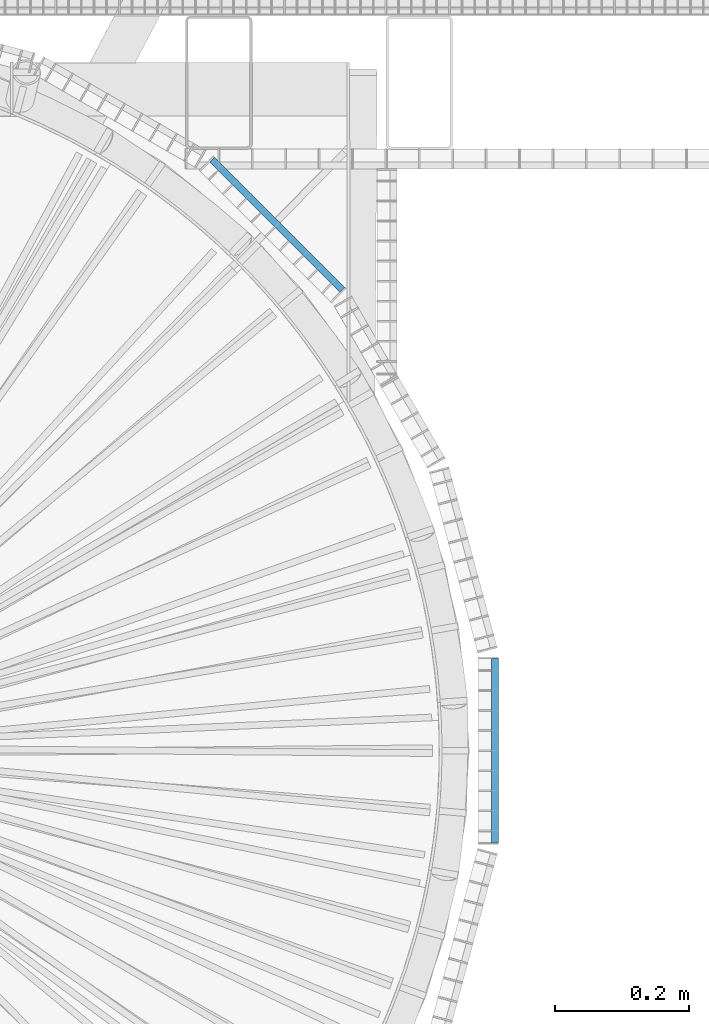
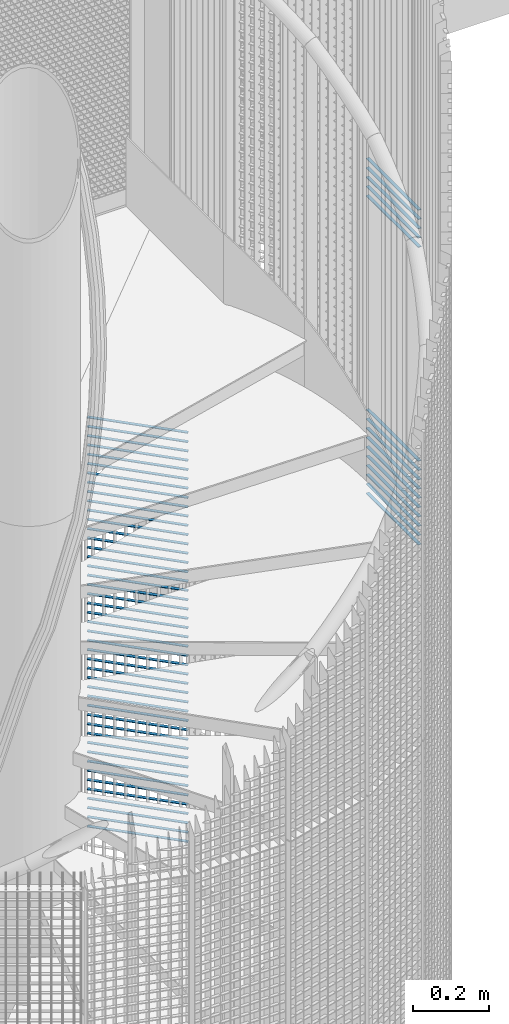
# One storey, part 297 of 1183: 60 beams, 2 elements without a shape of their own.
"""IFC2X3 building model written with IfcOpenShell, lengths in millimetres."""

import ifcopenshell
import ifcopenshell.guid

model = None  # the IFC model being written
_history = None  # IfcOwnerHistory: only IFC2X3 demands one
_inside = {}  # id of a spatial element -> (the spatial element, [elements in it])
_under = {}  # id of a project, library or spatial element -> (it, [spatial elements below it])
_declared = {}  # id of a project -> (the project, [libraries it declares])
_typed = {}  # id of a type object -> (the type object, [elements of that type])
_made_of = {}  # id of a material, layer set ... -> (it, [elements and type objects made of it])


def new_model(schema):
    """Start an empty IFC model of exactly this schema.

    Asked for "IFC4X3", IfcOpenShell would pick the latest addendum, in which some entities
    have other attributes; the version numbers below select the first issue.
    IFC2X3 requires an IfcOwnerHistory on every rooted entity: one is made here for all.
    """
    global model, _history
    if schema == "IFC4X3":
        model = ifcopenshell.file(schema_version=(4, 3, 0, 0))
    else:
        model = ifcopenshell.file(schema=schema)
    _inside.clear()
    _under.clear()
    _declared.clear()
    _typed.clear()
    _made_of.clear()
    _history = None
    if model.schema == "IFC2X3":
        org = make("IfcOrganization", Name="unknown")
        user = make(
            "IfcPersonAndOrganization",
            ThePerson=make("IfcPerson", FamilyName="unknown"),
            TheOrganization=org,
        )
        app = make(
            "IfcApplication",
            ApplicationDeveloper=org,
            Version="unknown",
            ApplicationFullName="unknown",
            ApplicationIdentifier="unknown",
        )
        _history = make(
            "IfcOwnerHistory",
            OwningUser=user,
            OwningApplication=app,
            ChangeAction="ADDED",
            CreationDate=0,
        )
    return model


def make(cls, **values):
    """One entity of the class cls with the attributes given. An attribute that is None is left unset."""
    return model.create_entity(
        cls, **{name: value for name, value in values.items() if value is not None}
    )


def rooted(cls, **values):
    """An entity with a GlobalId (a new one), such as an element, a storey or a relation."""
    return make(cls, GlobalId=ifcopenshell.guid.new(), OwnerHistory=_history, **values)


def si_unit(unit_type, name, prefix=None):
    """IfcSIUnit, for example si_unit("LENGTHUNIT", "METRE", prefix="MILLI")."""
    return make("IfcSIUnit", UnitType=unit_type, Prefix=prefix, Name=name)


def assignment(units):
    """IfcUnitAssignment: the units of a project."""
    return None if units is None else make("IfcUnitAssignment", Units=units)


def point(xyz):
    """IfcCartesianPoint."""
    return None if xyz is None else make("IfcCartesianPoint", Coordinates=xyz)


def direction(xyz):
    """IfcDirection."""
    return None if xyz is None else make("IfcDirection", DirectionRatios=xyz)


def frame(location, z_axis=None, x_axis=None):
    """IfcAxis2Placement3D, a coordinate frame: its origin and axes. An axis left out is left unset."""
    return make(
        "IfcAxis2Placement3D",
        Location=point(location),
        Axis=direction(z_axis),
        RefDirection=direction(x_axis),
    )


def frame_2d(location, x_axis=None):
    """IfcAxis2Placement2D, a coordinate frame in the plane: its origin and x axis."""
    return make(
        "IfcAxis2Placement2D", Location=point(location), RefDirection=direction(x_axis)
    )


def origin_with_axes():
    """The frame at (0, 0, 0) with the z axis (0, 0, 1) and the x axis (1, 0, 0) written out."""
    return frame((0.0, 0.0, 0.0), z_axis=(0.0, 0.0, 1.0), x_axis=(1.0, 0.0, 0.0))


def origin_2d_with_axis():
    """The frame at (0, 0) in the plane with the x axis (1, 0) written out."""
    return frame_2d((0.0, 0.0), x_axis=(1.0, 0.0))


def place(relative_to, where):
    """IfcLocalPlacement: puts the frame where relative to a parent placement (None: the world)."""
    return make(
        "IfcLocalPlacement", PlacementRelTo=relative_to, RelativePlacement=where
    )


def context(
    kind, dimensions, precision=None, world=None, true_north=None, identifier=None
):
    """IfcGeometricRepresentationContext, for example the 3D "Model" context."""
    return make(
        "IfcGeometricRepresentationContext",
        ContextIdentifier=identifier,
        ContextType=kind,
        CoordinateSpaceDimension=dimensions,
        Precision=precision,
        WorldCoordinateSystem=world,
        TrueNorth=true_north,
    )


def subcontext(parent, identifier, kind, view, scale=None):
    """IfcGeometricRepresentationSubContext, for example "Body" below "Model"."""
    return make(
        "IfcGeometricRepresentationSubContext",
        ContextIdentifier=identifier,
        ContextType=kind,
        ParentContext=parent,
        TargetScale=scale,
        TargetView=view,
    )


def project(units=None, contexts=None):
    """IfcProject with its units and contexts."""
    return rooted(
        "IfcProject",
        Name="project",
        RepresentationContexts=contexts,
        UnitsInContext=assignment(units),
    )


def spatial(cls, under=None, at=None, **own):
    """A site, building, storey or space (cls), placed at a placement, below another one or the project."""
    s = rooted(cls, ObjectPlacement=at, **own)
    if under is not None:
        _under.setdefault(under.id(), (under, []))[1].append(s)
    return s


def profile(cls, at=None, kind="AREA", **sizes):
    """A parametric profile (cls). Its sizes go by their IFC names, for example OverallWidth=200.0."""
    return make(cls, ProfileType=kind, Position=at, **sizes)


def rectangle(**sizes):
    """IfcRectangleProfileDef."""
    return profile("IfcRectangleProfileDef", **sizes)


def extrude(swept, where, along, depth):
    """IfcExtrudedAreaSolid: the profile swept, set in the frame where, extruded along a direction by depth."""
    return make(
        "IfcExtrudedAreaSolid",
        SweptArea=swept,
        Position=where,
        ExtrudedDirection=direction(along),
        Depth=depth,
    )


def shape(context_of_items, identifier, shape_type, items):
    """IfcShapeRepresentation: the items that make up one representation, for example the "Body"."""
    return make(
        "IfcShapeRepresentation",
        ContextOfItems=context_of_items,
        RepresentationIdentifier=identifier,
        RepresentationType=shape_type,
        Items=items,
    )


def material(Name=None, Category=None):
    """IfcMaterial."""
    return make("IfcMaterial", Name=Name, Category=Category)


def made_of(thing, what):
    """Note that an element or type object is made of a material, layer set ...; save() writes the relation."""
    if what is not None:
        _made_of.setdefault(what.id(), (what, []))[1].append(thing)
    return thing


def type_object(cls, material=None, **own):
    """A type object (cls), such as IfcWallType, which elements share."""
    return made_of(rooted(cls, **own), material)


def element(
    cls,
    number,
    at=None,
    inside=None,
    cuts=None,
    type_object=None,
    material=None,
    context=None,
    identifier="Body",
    shape_type=None,
    held_by="IfcProductDefinitionShape",
    body=None,
    shapes=None,
    **own,
):
    """One element of the class cls, such as IfcWall. Its Tag is "e" and its number.

    at: its placement. inside: the storey or other place that contains it. cuts: it is an
    opening in that element (IfcRelVoidsElement). A single representation is given by context,
    identifier, shape_type and body (its items); several are given by shapes. held_by: the class
    of the entity that holds the representations. save() writes the other relations.
    """
    e = rooted(cls, Tag="e%d" % number, ObjectPlacement=at, **own)
    if body is not None:
        shapes = [shape(context, identifier, shape_type, body)]
    if shapes is not None:
        e.Representation = make(held_by, Representations=shapes)
    if inside is not None:
        _inside.setdefault(inside.id(), (inside, []))[1].append(e)
    if cuts is not None:
        rooted(
            "IfcRelVoidsElement", RelatingBuildingElement=cuts, RelatedOpeningElement=e
        )
    if type_object is not None:
        _typed.setdefault(type_object.id(), (type_object, []))[1].append(e)
    return made_of(e, material)


def aggregate(whole, parts):
    """IfcRelAggregates: a whole, such as a stair, and the parts it consists of."""
    return rooted("IfcRelAggregates", RelatingObject=whole, RelatedObjects=parts)


def save(model, path):
    """Write the relations noted so far, then the file.

    IfcRelAggregates (storeys below a building ...), IfcRelContainedInSpatialStructure (elements
    in a storey), IfcRelDefinesByType, IfcRelAssociatesMaterial and IfcRelDeclares: one each for
    every whole, place, type object, material and project.
    """
    for whole, parts in _under.values():
        aggregate(whole, parts)
    for where, things in _inside.values():
        rooted(
            "IfcRelContainedInSpatialStructure",
            RelatedElements=things,
            RelatingStructure=where,
        )
    for kind, things in _typed.values():
        rooted("IfcRelDefinesByType", RelatedObjects=things, RelatingType=kind)
    for what, things in _made_of.values():
        rooted("IfcRelAssociatesMaterial", RelatedObjects=things, RelatingMaterial=what)
    for by, libraries in _declared.values():
        rooted("IfcRelDeclares", RelatingContext=by, RelatedDefinitions=libraries)
    model.write(path)


model = new_model("IFC2X3")

# Units and contexts
model_context = context("Model", 3, precision=1e-05, world=origin_with_axes())
body_context = subcontext(model_context, "Body", "Model", "MODEL_VIEW")
ifc_project = project(units=[si_unit("LENGTHUNIT", "METRE", prefix="MILLI"), si_unit("AREAUNIT", "SQUARE_METRE"), si_unit("VOLUMEUNIT", "CUBIC_METRE"), si_unit("MASSUNIT", "GRAM", prefix="KILO"), si_unit("TIMEUNIT", "SECOND"), si_unit("PLANEANGLEUNIT", "RADIAN"), si_unit("SOLIDANGLEUNIT", "STERADIAN"), si_unit("THERMODYNAMICTEMPERATUREUNIT", "DEGREE_CELSIUS"), si_unit("LUMINOUSINTENSITYUNIT", "LUMEN")], contexts=[model_context])

# Site, building, storey
site_placement = place(None, origin_with_axes())
site = spatial("IfcSite", under=ifc_project, at=site_placement, Name="Undefined", CompositionType="ELEMENT")
building_placement = place(site_placement, origin_with_axes())
building = spatial("IfcBuilding", under=site, at=building_placement, Name="Undefined", CompositionType="ELEMENT")
storey_placement = place(building_placement, origin_with_axes())
storey = spatial("IfcBuildingStorey", under=building, at=storey_placement, Name="Undefined", CompositionType="ELEMENT", Elevation=0.0)

# Assembly, beams
assembly_1_placement = place(storey_placement, origin_with_axes())
assembly_1 = element("IfcElementAssembly", 1, at=assembly_1_placement, inside=storey, Name="BORDURE", AssemblyPlace="NOTDEFINED", PredefinedType="NOTDEFINED")
ifc_material = material(Name="STEEL/S235JR")
beam_type = type_object("IfcBeamType", Name="PL2*10", PredefinedType="NOTDEFINED")
beam_1_placement = place(assembly_1_placement, frame((1113.47999999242, -137.996003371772, 6300.0), z_axis=(1.0, 0.0, 0.0), x_axis=(0.0, 1.0, 0.0)))
beam_1 = element("IfcBeam", 2, at=beam_1_placement, type_object=beam_type, material=ifc_material, Name="ENTRETOISE", context=body_context, shape_type="SweptSolid", body=[
    extrude(rectangle(XDim=2.0, YDim=10.0, at=origin_2d_with_axis()), frame((275.999999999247, 9.09494701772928e-13, 1.53210777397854e-14), z_axis=(-1.0, 0.0, 0.0), x_axis=(0.0, -1.0, 0.0)), (0.0, 0.0, 1.0), 276.0),
])
beam_2_placement = place(assembly_1_placement, frame((1113.47999999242, -137.996003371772, 6270.0), z_axis=(1.0, 0.0, 0.0), x_axis=(0.0, 1.0, 0.0)))
beam_2 = element("IfcBeam", 3, at=beam_2_placement, type_object=beam_type, material=ifc_material, Name="ENTRETOISE", context=body_context, shape_type="SweptSolid", body=[
    extrude(rectangle(XDim=2.0, YDim=10.0, at=origin_2d_with_axis()), frame((275.999999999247, 9.09494701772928e-13, 1.53210777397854e-14), z_axis=(-1.0, 0.0, 0.0), x_axis=(0.0, -1.0, 0.0)), (0.0, 0.0, 1.0), 276.0),
])
beam_3_placement = place(assembly_1_placement, frame((1113.47999999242, -137.996003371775, 6990.0), z_axis=(1.0, 0.0, 0.0), x_axis=(0.0, 1.0, 0.0)))
beam_3 = element("IfcBeam", 4, at=beam_3_placement, type_object=beam_type, material=ifc_material, Name="ENTRETOISE", context=body_context, shape_type="SweptSolid", body=[
    extrude(rectangle(XDim=2.0, YDim=10.0, at=origin_2d_with_axis()), frame((275.999999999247, 9.09494701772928e-13, 1.53210777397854e-14), z_axis=(-1.0, 0.0, 0.0), x_axis=(0.0, -1.0, 0.0)), (0.0, 0.0, 1.0), 276.0),
])
beam_4_placement = place(assembly_1_placement, frame((1113.47999999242, -137.996003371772, 6240.0), z_axis=(1.0, 0.0, 0.0), x_axis=(0.0, 1.0, 0.0)))
beam_4 = element("IfcBeam", 5, at=beam_4_placement, type_object=beam_type, material=ifc_material, Name="ENTRETOISE", context=body_context, shape_type="SweptSolid", body=[
    extrude(rectangle(XDim=2.0, YDim=10.0, at=origin_2d_with_axis()), frame((275.999999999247, 9.09494701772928e-13, 1.53210777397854e-14), z_axis=(-1.0, 0.0, 0.0), x_axis=(0.0, -1.0, 0.0)), (0.0, 0.0, 1.0), 276.0),
])
beam_5_placement = place(assembly_1_placement, frame((1113.47999999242, -137.996003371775, 7020.0), z_axis=(1.0, 0.0, 0.0), x_axis=(0.0, 1.0, 0.0)))
beam_5 = element("IfcBeam", 6, at=beam_5_placement, type_object=beam_type, material=ifc_material, Name="ENTRETOISE", context=body_context, shape_type="SweptSolid", body=[
    extrude(rectangle(XDim=2.0, YDim=10.0, at=origin_2d_with_axis()), frame((275.999999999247, 9.09494701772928e-13, 1.53210777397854e-14), z_axis=(-1.0, 0.0, 0.0), x_axis=(0.0, -1.0, 0.0)), (0.0, 0.0, 1.0), 276.0),
])
beam_6_placement = place(assembly_1_placement, frame((1113.47999999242, -137.996003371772, 6210.0), z_axis=(1.0, 0.0, 0.0), x_axis=(0.0, 1.0, 0.0)))
beam_6 = element("IfcBeam", 7, at=beam_6_placement, type_object=beam_type, material=ifc_material, Name="ENTRETOISE", context=body_context, shape_type="SweptSolid", body=[
    extrude(rectangle(XDim=2.0, YDim=10.0, at=origin_2d_with_axis()), frame((275.999999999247, 9.09494701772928e-13, 1.53210777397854e-14), z_axis=(-1.0, 0.0, 0.0), x_axis=(0.0, -1.0, 0.0)), (0.0, 0.0, 1.0), 276.0),
])
beam_7_placement = place(assembly_1_placement, frame((1113.47999999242, -137.996003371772, 6180.0), z_axis=(1.0, 0.0, 0.0), x_axis=(0.0, 1.0, 0.0)))
beam_7 = element("IfcBeam", 8, at=beam_7_placement, type_object=beam_type, material=ifc_material, Name="ENTRETOISE", context=body_context, shape_type="SweptSolid", body=[
    extrude(rectangle(XDim=2.0, YDim=10.0, at=origin_2d_with_axis()), frame((275.999999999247, 9.09494701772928e-13, 1.53210777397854e-14), z_axis=(-1.0, 0.0, 0.0), x_axis=(0.0, -1.0, 0.0)), (0.0, 0.0, 1.0), 276.0),
])
beam_8_placement = place(assembly_1_placement, frame((1113.47999999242, -137.996003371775, 7050.0), z_axis=(1.0, 0.0, 0.0), x_axis=(0.0, 1.0, 0.0)))
beam_8 = element("IfcBeam", 9, at=beam_8_placement, type_object=beam_type, material=ifc_material, Name="ENTRETOISE", context=body_context, shape_type="SweptSolid", body=[
    extrude(rectangle(XDim=2.0, YDim=10.0, at=origin_2d_with_axis()), frame((275.999999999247, 9.09494701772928e-13, 1.53210777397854e-14), z_axis=(-1.0, 0.0, 0.0), x_axis=(0.0, -1.0, 0.0)), (0.0, 0.0, 1.0), 276.0),
])
beam_9_placement = place(assembly_1_placement, frame((1113.47999999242, -137.996003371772, 6150.0), z_axis=(1.0, 0.0, 0.0), x_axis=(0.0, 1.0, 0.0)))
beam_9 = element("IfcBeam", 10, at=beam_9_placement, type_object=beam_type, material=ifc_material, Name="ENTRETOISE", context=body_context, shape_type="SweptSolid", body=[
    extrude(rectangle(XDim=2.0, YDim=10.0, at=origin_2d_with_axis()), frame((275.999999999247, 9.09494701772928e-13, 1.53210777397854e-14), z_axis=(-1.0, 0.0, 0.0), x_axis=(0.0, -1.0, 0.0)), (0.0, 0.0, 1.0), 276.0),
])
beam_10_placement = place(assembly_1_placement, frame((1113.47999999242, -137.996003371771, 6120.0), z_axis=(1.0, 0.0, 0.0), x_axis=(0.0, 1.0, 0.0)))
beam_10 = element("IfcBeam", 11, at=beam_10_placement, type_object=beam_type, material=ifc_material, Name="ENTRETOISE", context=body_context, shape_type="SweptSolid", body=[
    extrude(rectangle(XDim=2.0, YDim=10.0, at=origin_2d_with_axis()), frame((275.999999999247, 9.09494701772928e-13, 1.53210777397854e-14), z_axis=(-1.0, 0.0, 0.0), x_axis=(0.0, -1.0, 0.0)), (0.0, 0.0, 1.0), 276.0),
])
beam_11_placement = place(assembly_1_placement, frame((1113.47999999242, -137.996003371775, 7080.0), z_axis=(1.0, 0.0, 0.0), x_axis=(0.0, 1.0, 0.0)))
beam_11 = element("IfcBeam", 12, at=beam_11_placement, type_object=beam_type, material=ifc_material, Name="ENTRETOISE", context=body_context, shape_type="SweptSolid", body=[
    extrude(rectangle(XDim=2.0, YDim=10.0, at=origin_2d_with_axis()), frame((275.999999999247, 9.09494701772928e-13, 1.53210777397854e-14), z_axis=(-1.0, 0.0, 0.0), x_axis=(0.0, -1.0, 0.0)), (0.0, 0.0, 1.0), 276.0),
])
beam_12_placement = place(assembly_1_placement, frame((1113.47999999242, -137.996003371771, 6090.0), z_axis=(1.0, 0.0, 0.0), x_axis=(0.0, 1.0, 0.0)))
beam_12 = element("IfcBeam", 13, at=beam_12_placement, type_object=beam_type, material=ifc_material, Name="ENTRETOISE", context=body_context, shape_type="SweptSolid", body=[
    extrude(rectangle(XDim=2.0, YDim=10.0, at=origin_2d_with_axis()), frame((275.999999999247, 9.09494701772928e-13, 1.53210777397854e-14), z_axis=(-1.0, 0.0, 0.0), x_axis=(0.0, -1.0, 0.0)), (0.0, 0.0, 1.0), 276.0),
])
beam_13_placement = place(assembly_1_placement, frame((1113.47999999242, -137.996003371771, 6060.0), z_axis=(1.0, 0.0, 0.0), x_axis=(0.0, 1.0, 0.0)))
beam_13 = element("IfcBeam", 14, at=beam_13_placement, type_object=beam_type, material=ifc_material, Name="ENTRETOISE", context=body_context, shape_type="SweptSolid", body=[
    extrude(rectangle(XDim=2.0, YDim=10.0, at=origin_2d_with_axis()), frame((275.999999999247, 9.09494701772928e-13, 1.53210777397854e-14), z_axis=(-1.0, 0.0, 0.0), x_axis=(0.0, -1.0, 0.0)), (0.0, 0.0, 1.0), 276.0),
])
beam_14_placement = place(assembly_1_placement, frame((1113.47999999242, -137.996003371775, 7110.0), z_axis=(1.0, 0.0, 0.0), x_axis=(0.0, 1.0, 0.0)))
beam_14 = element("IfcBeam", 15, at=beam_14_placement, type_object=beam_type, material=ifc_material, Name="ENTRETOISE", context=body_context, shape_type="SweptSolid", body=[
    extrude(rectangle(XDim=2.0, YDim=10.0, at=origin_2d_with_axis()), frame((275.999999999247, 9.09494701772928e-13, 1.53210777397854e-14), z_axis=(-1.0, 0.0, 0.0), x_axis=(0.0, -1.0, 0.0)), (0.0, 0.0, 1.0), 276.0),
])
beam_15_placement = place(assembly_1_placement, frame((1113.47999999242, -137.99600337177, 6030.0), z_axis=(1.0, 0.0, 0.0), x_axis=(0.0, 1.0, 0.0)))
beam_15 = element("IfcBeam", 16, at=beam_15_placement, type_object=beam_type, material=ifc_material, Name="ENTRETOISE", context=body_context, shape_type="SweptSolid", body=[
    extrude(rectangle(XDim=2.0, YDim=10.0, at=origin_2d_with_axis()), frame((275.999999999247, 9.09494701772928e-13, 1.53210777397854e-14), z_axis=(-1.0, 0.0, 0.0), x_axis=(0.0, -1.0, 0.0)), (0.0, 0.0, 1.0), 276.0),
])
aggregate(assembly_1, [beam_1, beam_2, beam_3, beam_4, beam_5, beam_6, beam_7, beam_8, beam_9, beam_10, beam_11, beam_12, beam_13, beam_14, beam_15])

assembly_2_placement = place(storey_placement, origin_with_axes())
assembly_2 = element("IfcElementAssembly", 17, at=assembly_2_placement, inside=storey, Name="BORDURE", AssemblyPlace="NOTDEFINED", PredefinedType="NOTDEFINED")
beam_16_placement = place(assembly_2_placement, frame((884.927168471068, 689.771348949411, 5970.0), z_axis=(0.707106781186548, 0.707106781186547, 0.0), x_axis=(-0.707106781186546, 0.707106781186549, 0.0)))
beam_16 = element("IfcBeam", 18, at=beam_16_placement, type_object=beam_type, material=ifc_material, Name="ENTRETOISE", context=body_context, shape_type="SweptSolid", body=[
    extrude(rectangle(XDim=2.0, YDim=10.0, at=origin_2d_with_axis()), frame((275.999999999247, 9.09494701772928e-13, 1.53210777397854e-14), z_axis=(-1.0, 0.0, 0.0), x_axis=(0.0, -1.0, 0.0)), (0.0, 0.0, 1.0), 276.0),
])
beam_17_placement = place(assembly_2_placement, frame((884.927168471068, 689.771348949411, 5940.0), z_axis=(0.707106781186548, 0.707106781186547, 0.0), x_axis=(-0.707106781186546, 0.707106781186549, 0.0)))
beam_17 = element("IfcBeam", 19, at=beam_17_placement, type_object=beam_type, material=ifc_material, Name="ENTRETOISE", context=body_context, shape_type="SweptSolid", body=[
    extrude(rectangle(XDim=2.0, YDim=10.0, at=origin_2d_with_axis()), frame((275.999999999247, 9.09494701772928e-13, 1.53210777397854e-14), z_axis=(-1.0, 0.0, 0.0), x_axis=(0.0, -1.0, 0.0)), (0.0, 0.0, 1.0), 276.0),
])
beam_18_placement = place(assembly_2_placement, frame((884.927168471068, 689.771348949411, 5910.0), z_axis=(0.707106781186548, 0.707106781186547, 0.0), x_axis=(-0.707106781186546, 0.707106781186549, 0.0)))
beam_18 = element("IfcBeam", 20, at=beam_18_placement, type_object=beam_type, material=ifc_material, Name="ENTRETOISE", context=body_context, shape_type="SweptSolid", body=[
    extrude(rectangle(XDim=2.0, YDim=10.0, at=origin_2d_with_axis()), frame((275.999999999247, 9.09494701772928e-13, 1.53210777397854e-14), z_axis=(-1.0, 0.0, 0.0), x_axis=(0.0, -1.0, 0.0)), (0.0, 0.0, 1.0), 276.0),
])
beam_19_placement = place(assembly_2_placement, frame((884.927168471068, 689.771348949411, 5880.0), z_axis=(0.707106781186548, 0.707106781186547, 0.0), x_axis=(-0.707106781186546, 0.707106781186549, 0.0)))
beam_19 = element("IfcBeam", 21, at=beam_19_placement, type_object=beam_type, material=ifc_material, Name="ENTRETOISE", context=body_context, shape_type="SweptSolid", body=[
    extrude(rectangle(XDim=2.0, YDim=10.0, at=origin_2d_with_axis()), frame((275.999999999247, 9.09494701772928e-13, 1.53210777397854e-14), z_axis=(-1.0, 0.0, 0.0), x_axis=(0.0, -1.0, 0.0)), (0.0, 0.0, 1.0), 276.0),
])
beam_20_placement = place(assembly_2_placement, frame((884.927168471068, 689.771348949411, 5850.0), z_axis=(0.707106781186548, 0.707106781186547, 0.0), x_axis=(-0.707106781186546, 0.707106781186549, 0.0)))
beam_20 = element("IfcBeam", 22, at=beam_20_placement, type_object=beam_type, material=ifc_material, Name="ENTRETOISE", context=body_context, shape_type="SweptSolid", body=[
    extrude(rectangle(XDim=2.0, YDim=10.0, at=origin_2d_with_axis()), frame((275.999999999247, 9.09494701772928e-13, 1.53210777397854e-14), z_axis=(-1.0, 0.0, 0.0), x_axis=(0.0, -1.0, 0.0)), (0.0, 0.0, 1.0), 276.0),
])
beam_21_placement = place(assembly_2_placement, frame((884.927168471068, 689.771348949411, 5820.0), z_axis=(0.707106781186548, 0.707106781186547, 0.0), x_axis=(-0.707106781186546, 0.707106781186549, 0.0)))
beam_21 = element("IfcBeam", 23, at=beam_21_placement, type_object=beam_type, material=ifc_material, Name="ENTRETOISE", context=body_context, shape_type="SweptSolid", body=[
    extrude(rectangle(XDim=2.0, YDim=10.0, at=origin_2d_with_axis()), frame((275.999999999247, 9.09494701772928e-13, 1.53210777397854e-14), z_axis=(-1.0, 0.0, 0.0), x_axis=(0.0, -1.0, 0.0)), (0.0, 0.0, 1.0), 276.0),
])
beam_22_placement = place(assembly_2_placement, frame((884.927168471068, 689.771348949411, 5790.0), z_axis=(0.707106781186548, 0.707106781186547, 0.0), x_axis=(-0.707106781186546, 0.707106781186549, 0.0)))
beam_22 = element("IfcBeam", 24, at=beam_22_placement, type_object=beam_type, material=ifc_material, Name="ENTRETOISE", context=body_context, shape_type="SweptSolid", body=[
    extrude(rectangle(XDim=2.0, YDim=10.0, at=origin_2d_with_axis()), frame((275.999999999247, 9.09494701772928e-13, 1.53210777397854e-14), z_axis=(-1.0, 0.0, 0.0), x_axis=(0.0, -1.0, 0.0)), (0.0, 0.0, 1.0), 276.0),
])
beam_23_placement = place(assembly_2_placement, frame((884.927168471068, 689.771348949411, 5760.0), z_axis=(0.707106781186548, 0.707106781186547, 0.0), x_axis=(-0.707106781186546, 0.707106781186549, 0.0)))
beam_23 = element("IfcBeam", 25, at=beam_23_placement, type_object=beam_type, material=ifc_material, Name="ENTRETOISE", context=body_context, shape_type="SweptSolid", body=[
    extrude(rectangle(XDim=2.0, YDim=10.0, at=origin_2d_with_axis()), frame((275.999999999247, 9.09494701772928e-13, 1.53210777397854e-14), z_axis=(-1.0, 0.0, 0.0), x_axis=(0.0, -1.0, 0.0)), (0.0, 0.0, 1.0), 276.0),
])
beam_24_placement = place(assembly_2_placement, frame((884.927168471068, 689.771348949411, 5730.0), z_axis=(0.707106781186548, 0.707106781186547, 0.0), x_axis=(-0.707106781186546, 0.707106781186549, 0.0)))
beam_24 = element("IfcBeam", 26, at=beam_24_placement, type_object=beam_type, material=ifc_material, Name="ENTRETOISE", context=body_context, shape_type="SweptSolid", body=[
    extrude(rectangle(XDim=2.0, YDim=10.0, at=origin_2d_with_axis()), frame((275.999999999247, 9.09494701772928e-13, 1.53210777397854e-14), z_axis=(-1.0, 0.0, 0.0), x_axis=(0.0, -1.0, 0.0)), (0.0, 0.0, 1.0), 276.0),
])
beam_25_placement = place(assembly_2_placement, frame((884.927168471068, 689.771348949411, 5700.0), z_axis=(0.707106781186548, 0.707106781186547, 0.0), x_axis=(-0.707106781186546, 0.707106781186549, 0.0)))
beam_25 = element("IfcBeam", 27, at=beam_25_placement, type_object=beam_type, material=ifc_material, Name="ENTRETOISE", context=body_context, shape_type="SweptSolid", body=[
    extrude(rectangle(XDim=2.0, YDim=10.0, at=origin_2d_with_axis()), frame((275.999999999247, 9.09494701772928e-13, 1.53210777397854e-14), z_axis=(-1.0, 0.0, 0.0), x_axis=(0.0, -1.0, 0.0)), (0.0, 0.0, 1.0), 276.0),
])
beam_26_placement = place(assembly_2_placement, frame((884.927168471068, 689.771348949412, 5670.0), z_axis=(0.707106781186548, 0.707106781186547, 0.0), x_axis=(-0.707106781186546, 0.707106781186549, 0.0)))
beam_26 = element("IfcBeam", 28, at=beam_26_placement, type_object=beam_type, material=ifc_material, Name="ENTRETOISE", context=body_context, shape_type="SweptSolid", body=[
    extrude(rectangle(XDim=2.0, YDim=10.0, at=origin_2d_with_axis()), frame((275.999999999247, 9.09494701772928e-13, 1.53210777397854e-14), z_axis=(-1.0, 0.0, 0.0), x_axis=(0.0, -1.0, 0.0)), (0.0, 0.0, 1.0), 276.0),
])
beam_27_placement = place(assembly_2_placement, frame((884.927168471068, 689.771348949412, 5640.0), z_axis=(0.707106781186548, 0.707106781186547, 0.0), x_axis=(-0.707106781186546, 0.707106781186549, 0.0)))
beam_27 = element("IfcBeam", 29, at=beam_27_placement, type_object=beam_type, material=ifc_material, Name="ENTRETOISE", context=body_context, shape_type="SweptSolid", body=[
    extrude(rectangle(XDim=2.0, YDim=10.0, at=origin_2d_with_axis()), frame((275.999999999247, 9.09494701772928e-13, 1.53210777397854e-14), z_axis=(-1.0, 0.0, 0.0), x_axis=(0.0, -1.0, 0.0)), (0.0, 0.0, 1.0), 276.0),
])
beam_28_placement = place(assembly_2_placement, frame((884.927168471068, 689.771348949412, 5610.0), z_axis=(0.707106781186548, 0.707106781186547, 0.0), x_axis=(-0.707106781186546, 0.707106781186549, 0.0)))
beam_28 = element("IfcBeam", 30, at=beam_28_placement, type_object=beam_type, material=ifc_material, Name="ENTRETOISE", context=body_context, shape_type="SweptSolid", body=[
    extrude(rectangle(XDim=2.0, YDim=10.0, at=origin_2d_with_axis()), frame((275.999999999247, 9.09494701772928e-13, 1.53210777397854e-14), z_axis=(-1.0, 0.0, 0.0), x_axis=(0.0, -1.0, 0.0)), (0.0, 0.0, 1.0), 276.0),
])
beam_29_placement = place(assembly_2_placement, frame((884.927168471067, 689.771348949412, 5580.0), z_axis=(0.707106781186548, 0.707106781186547, 0.0), x_axis=(-0.707106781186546, 0.707106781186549, 0.0)))
beam_29 = element("IfcBeam", 31, at=beam_29_placement, type_object=beam_type, material=ifc_material, Name="ENTRETOISE", context=body_context, shape_type="SweptSolid", body=[
    extrude(rectangle(XDim=2.0, YDim=10.0, at=origin_2d_with_axis()), frame((275.999999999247, 9.09494701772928e-13, 1.53210777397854e-14), z_axis=(-1.0, 0.0, 0.0), x_axis=(0.0, -1.0, 0.0)), (0.0, 0.0, 1.0), 276.0),
])
beam_30_placement = place(assembly_2_placement, frame((884.927168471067, 689.771348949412, 5550.0), z_axis=(0.707106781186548, 0.707106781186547, 0.0), x_axis=(-0.707106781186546, 0.707106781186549, 0.0)))
beam_30 = element("IfcBeam", 32, at=beam_30_placement, type_object=beam_type, material=ifc_material, Name="ENTRETOISE", context=body_context, shape_type="SweptSolid", body=[
    extrude(rectangle(XDim=2.0, YDim=10.0, at=origin_2d_with_axis()), frame((275.999999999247, 9.09494701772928e-13, 1.53210777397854e-14), z_axis=(-1.0, 0.0, 0.0), x_axis=(0.0, -1.0, 0.0)), (0.0, 0.0, 1.0), 276.0),
])
beam_31_placement = place(assembly_2_placement, frame((884.927168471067, 689.771348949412, 5520.0), z_axis=(0.707106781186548, 0.707106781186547, 0.0), x_axis=(-0.707106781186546, 0.707106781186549, 0.0)))
beam_31 = element("IfcBeam", 33, at=beam_31_placement, type_object=beam_type, material=ifc_material, Name="ENTRETOISE", context=body_context, shape_type="SweptSolid", body=[
    extrude(rectangle(XDim=2.0, YDim=10.0, at=origin_2d_with_axis()), frame((275.999999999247, 9.09494701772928e-13, 1.53210777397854e-14), z_axis=(-1.0, 0.0, 0.0), x_axis=(0.0, -1.0, 0.0)), (0.0, 0.0, 1.0), 276.0),
])
beam_32_placement = place(assembly_2_placement, frame((884.927168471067, 689.771348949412, 5490.0), z_axis=(0.707106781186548, 0.707106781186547, 0.0), x_axis=(-0.707106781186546, 0.707106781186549, 0.0)))
beam_32 = element("IfcBeam", 34, at=beam_32_placement, type_object=beam_type, material=ifc_material, Name="ENTRETOISE", context=body_context, shape_type="SweptSolid", body=[
    extrude(rectangle(XDim=2.0, YDim=10.0, at=origin_2d_with_axis()), frame((275.999999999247, 9.09494701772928e-13, 1.53210777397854e-14), z_axis=(-1.0, 0.0, 0.0), x_axis=(0.0, -1.0, 0.0)), (0.0, 0.0, 1.0), 276.0),
])
beam_33_placement = place(assembly_2_placement, frame((884.927168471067, 689.771348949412, 5460.0), z_axis=(0.707106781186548, 0.707106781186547, 0.0), x_axis=(-0.707106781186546, 0.707106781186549, 0.0)))
beam_33 = element("IfcBeam", 35, at=beam_33_placement, type_object=beam_type, material=ifc_material, Name="ENTRETOISE", context=body_context, shape_type="SweptSolid", body=[
    extrude(rectangle(XDim=2.0, YDim=10.0, at=origin_2d_with_axis()), frame((275.999999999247, 9.09494701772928e-13, 1.53210777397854e-14), z_axis=(-1.0, 0.0, 0.0), x_axis=(0.0, -1.0, 0.0)), (0.0, 0.0, 1.0), 276.0),
])
beam_34_placement = place(assembly_2_placement, frame((884.927168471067, 689.771348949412, 5430.0), z_axis=(0.707106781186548, 0.707106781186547, 0.0), x_axis=(-0.707106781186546, 0.707106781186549, 0.0)))
beam_34 = element("IfcBeam", 36, at=beam_34_placement, type_object=beam_type, material=ifc_material, Name="ENTRETOISE", context=body_context, shape_type="SweptSolid", body=[
    extrude(rectangle(XDim=2.0, YDim=10.0, at=origin_2d_with_axis()), frame((275.999999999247, 9.09494701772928e-13, 1.53210777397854e-14), z_axis=(-1.0, 0.0, 0.0), x_axis=(0.0, -1.0, 0.0)), (0.0, 0.0, 1.0), 276.0),
])
beam_35_placement = place(assembly_2_placement, frame((884.927168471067, 689.771348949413, 5400.0), z_axis=(0.707106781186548, 0.707106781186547, 0.0), x_axis=(-0.707106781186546, 0.707106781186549, 0.0)))
beam_35 = element("IfcBeam", 37, at=beam_35_placement, type_object=beam_type, material=ifc_material, Name="ENTRETOISE", context=body_context, shape_type="SweptSolid", body=[
    extrude(rectangle(XDim=2.0, YDim=10.0, at=origin_2d_with_axis()), frame((275.999999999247, 9.09494701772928e-13, 1.53210777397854e-14), z_axis=(-1.0, 0.0, 0.0), x_axis=(0.0, -1.0, 0.0)), (0.0, 0.0, 1.0), 276.0),
])
beam_36_placement = place(assembly_2_placement, frame((884.927168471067, 689.771348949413, 5370.0), z_axis=(0.707106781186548, 0.707106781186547, 0.0), x_axis=(-0.707106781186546, 0.707106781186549, 0.0)))
beam_36 = element("IfcBeam", 38, at=beam_36_placement, type_object=beam_type, material=ifc_material, Name="ENTRETOISE", context=body_context, shape_type="SweptSolid", body=[
    extrude(rectangle(XDim=2.0, YDim=10.0, at=origin_2d_with_axis()), frame((275.999999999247, 9.09494701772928e-13, 1.53210777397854e-14), z_axis=(-1.0, 0.0, 0.0), x_axis=(0.0, -1.0, 0.0)), (0.0, 0.0, 1.0), 276.0),
])
beam_37_placement = place(assembly_2_placement, frame((884.927168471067, 689.771348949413, 5340.0), z_axis=(0.707106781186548, 0.707106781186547, 0.0), x_axis=(-0.707106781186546, 0.707106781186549, 0.0)))
beam_37 = element("IfcBeam", 39, at=beam_37_placement, type_object=beam_type, material=ifc_material, Name="ENTRETOISE", context=body_context, shape_type="SweptSolid", body=[
    extrude(rectangle(XDim=2.0, YDim=10.0, at=origin_2d_with_axis()), frame((275.999999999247, 9.09494701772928e-13, 1.53210777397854e-14), z_axis=(-1.0, 0.0, 0.0), x_axis=(0.0, -1.0, 0.0)), (0.0, 0.0, 1.0), 276.0),
])
beam_38_placement = place(assembly_2_placement, frame((884.927168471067, 689.771348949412, 5310.0), z_axis=(0.707106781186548, 0.707106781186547, 0.0), x_axis=(-0.707106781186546, 0.707106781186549, 0.0)))
beam_38 = element("IfcBeam", 40, at=beam_38_placement, type_object=beam_type, material=ifc_material, Name="ENTRETOISE", context=body_context, shape_type="SweptSolid", body=[
    extrude(rectangle(XDim=2.0, YDim=10.0, at=origin_2d_with_axis()), frame((275.999999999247, 9.09494701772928e-13, 1.53210777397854e-14), z_axis=(-1.0, 0.0, 0.0), x_axis=(0.0, -1.0, 0.0)), (0.0, 0.0, 1.0), 276.0),
])
beam_39_placement = place(assembly_2_placement, frame((884.927168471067, 689.771348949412, 5280.0), z_axis=(0.707106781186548, 0.707106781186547, 0.0), x_axis=(-0.707106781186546, 0.707106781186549, 0.0)))
beam_39 = element("IfcBeam", 41, at=beam_39_placement, type_object=beam_type, material=ifc_material, Name="ENTRETOISE", context=body_context, shape_type="SweptSolid", body=[
    extrude(rectangle(XDim=2.0, YDim=10.0, at=origin_2d_with_axis()), frame((275.999999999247, 9.09494701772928e-13, 1.53210777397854e-14), z_axis=(-1.0, 0.0, 0.0), x_axis=(0.0, -1.0, 0.0)), (0.0, 0.0, 1.0), 276.0),
])
beam_40_placement = place(assembly_2_placement, frame((884.927168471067, 689.771348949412, 5250.0), z_axis=(0.707106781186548, 0.707106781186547, 0.0), x_axis=(-0.707106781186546, 0.707106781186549, 0.0)))
beam_40 = element("IfcBeam", 42, at=beam_40_placement, type_object=beam_type, material=ifc_material, Name="ENTRETOISE", context=body_context, shape_type="SweptSolid", body=[
    extrude(rectangle(XDim=2.0, YDim=10.0, at=origin_2d_with_axis()), frame((275.999999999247, 9.09494701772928e-13, 1.53210777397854e-14), z_axis=(-1.0, 0.0, 0.0), x_axis=(0.0, -1.0, 0.0)), (0.0, 0.0, 1.0), 276.0),
])
beam_41_placement = place(assembly_2_placement, frame((884.927168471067, 689.771348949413, 5220.0), z_axis=(0.707106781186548, 0.707106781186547, 0.0), x_axis=(-0.707106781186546, 0.707106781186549, 0.0)))
beam_41 = element("IfcBeam", 43, at=beam_41_placement, type_object=beam_type, material=ifc_material, Name="ENTRETOISE", context=body_context, shape_type="SweptSolid", body=[
    extrude(rectangle(XDim=2.0, YDim=10.0, at=origin_2d_with_axis()), frame((275.999999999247, 9.09494701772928e-13, 1.53210777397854e-14), z_axis=(-1.0, 0.0, 0.0), x_axis=(0.0, -1.0, 0.0)), (0.0, 0.0, 1.0), 276.0),
])
beam_42_placement = place(assembly_2_placement, frame((884.927168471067, 689.771348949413, 5190.0), z_axis=(0.707106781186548, 0.707106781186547, 0.0), x_axis=(-0.707106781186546, 0.707106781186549, 0.0)))
beam_42 = element("IfcBeam", 44, at=beam_42_placement, type_object=beam_type, material=ifc_material, Name="ENTRETOISE", context=body_context, shape_type="SweptSolid", body=[
    extrude(rectangle(XDim=2.0, YDim=10.0, at=origin_2d_with_axis()), frame((275.999999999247, 9.09494701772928e-13, 1.53210777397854e-14), z_axis=(-1.0, 0.0, 0.0), x_axis=(0.0, -1.0, 0.0)), (0.0, 0.0, 1.0), 276.0),
])
beam_43_placement = place(assembly_2_placement, frame((884.927168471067, 689.771348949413, 5160.0), z_axis=(0.707106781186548, 0.707106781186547, 0.0), x_axis=(-0.707106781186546, 0.707106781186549, 0.0)))
beam_43 = element("IfcBeam", 45, at=beam_43_placement, type_object=beam_type, material=ifc_material, Name="ENTRETOISE", context=body_context, shape_type="SweptSolid", body=[
    extrude(rectangle(XDim=2.0, YDim=10.0, at=origin_2d_with_axis()), frame((275.999999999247, 9.09494701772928e-13, 1.53210777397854e-14), z_axis=(-1.0, 0.0, 0.0), x_axis=(0.0, -1.0, 0.0)), (0.0, 0.0, 1.0), 276.0),
])
beam_44_placement = place(assembly_2_placement, frame((884.927168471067, 689.771348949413, 5130.0), z_axis=(0.707106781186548, 0.707106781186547, 0.0), x_axis=(-0.707106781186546, 0.707106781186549, 0.0)))
beam_44 = element("IfcBeam", 46, at=beam_44_placement, type_object=beam_type, material=ifc_material, Name="ENTRETOISE", context=body_context, shape_type="SweptSolid", body=[
    extrude(rectangle(XDim=2.0, YDim=10.0, at=origin_2d_with_axis()), frame((275.999999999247, 9.09494701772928e-13, 1.53210777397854e-14), z_axis=(-1.0, 0.0, 0.0), x_axis=(0.0, -1.0, 0.0)), (0.0, 0.0, 1.0), 276.0),
])
beam_45_placement = place(assembly_2_placement, frame((884.927168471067, 689.771348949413, 5100.0), z_axis=(0.707106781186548, 0.707106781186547, 0.0), x_axis=(-0.707106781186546, 0.707106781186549, 0.0)))
beam_45 = element("IfcBeam", 47, at=beam_45_placement, type_object=beam_type, material=ifc_material, Name="ENTRETOISE", context=body_context, shape_type="SweptSolid", body=[
    extrude(rectangle(XDim=2.0, YDim=10.0, at=origin_2d_with_axis()), frame((275.999999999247, 9.09494701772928e-13, 1.53210777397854e-14), z_axis=(-1.0, 0.0, 0.0), x_axis=(0.0, -1.0, 0.0)), (0.0, 0.0, 1.0), 276.0),
])
beam_46_placement = place(assembly_2_placement, frame((884.927168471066, 689.771348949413, 5070.0), z_axis=(0.707106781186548, 0.707106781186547, 0.0), x_axis=(-0.707106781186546, 0.707106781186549, 0.0)))
beam_46 = element("IfcBeam", 48, at=beam_46_placement, type_object=beam_type, material=ifc_material, Name="ENTRETOISE", context=body_context, shape_type="SweptSolid", body=[
    extrude(rectangle(XDim=2.0, YDim=10.0, at=origin_2d_with_axis()), frame((275.999999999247, 9.09494701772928e-13, 1.53210777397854e-14), z_axis=(-1.0, 0.0, 0.0), x_axis=(0.0, -1.0, 0.0)), (0.0, 0.0, 1.0), 276.0),
])
beam_47_placement = place(assembly_2_placement, frame((884.927168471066, 689.771348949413, 5040.0), z_axis=(0.707106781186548, 0.707106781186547, 0.0), x_axis=(-0.707106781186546, 0.707106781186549, 0.0)))
beam_47 = element("IfcBeam", 49, at=beam_47_placement, type_object=beam_type, material=ifc_material, Name="ENTRETOISE", context=body_context, shape_type="SweptSolid", body=[
    extrude(rectangle(XDim=2.0, YDim=10.0, at=origin_2d_with_axis()), frame((275.999999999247, 9.09494701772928e-13, 1.53210777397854e-14), z_axis=(-1.0, 0.0, 0.0), x_axis=(0.0, -1.0, 0.0)), (0.0, 0.0, 1.0), 276.0),
])
beam_48_placement = place(assembly_2_placement, frame((884.927168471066, 689.771348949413, 5010.0), z_axis=(0.707106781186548, 0.707106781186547, 0.0), x_axis=(-0.707106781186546, 0.707106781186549, 0.0)))
beam_48 = element("IfcBeam", 50, at=beam_48_placement, type_object=beam_type, material=ifc_material, Name="ENTRETOISE", context=body_context, shape_type="SweptSolid", body=[
    extrude(rectangle(XDim=2.0, YDim=10.0, at=origin_2d_with_axis()), frame((275.999999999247, 9.09494701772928e-13, 1.53210777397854e-14), z_axis=(-1.0, 0.0, 0.0), x_axis=(0.0, -1.0, 0.0)), (0.0, 0.0, 1.0), 276.0),
])
beam_49_placement = place(assembly_2_placement, frame((884.927168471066, 689.771348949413, 4980.0), z_axis=(0.707106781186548, 0.707106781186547, 0.0), x_axis=(-0.707106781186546, 0.707106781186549, 0.0)))
beam_49 = element("IfcBeam", 51, at=beam_49_placement, type_object=beam_type, material=ifc_material, Name="ENTRETOISE", context=body_context, shape_type="SweptSolid", body=[
    extrude(rectangle(XDim=2.0, YDim=10.0, at=origin_2d_with_axis()), frame((275.999999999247, 9.09494701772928e-13, 1.53210777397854e-14), z_axis=(-1.0, 0.0, 0.0), x_axis=(0.0, -1.0, 0.0)), (0.0, 0.0, 1.0), 276.0),
])
beam_50_placement = place(assembly_2_placement, frame((884.927168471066, 689.771348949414, 4950.0), z_axis=(0.707106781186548, 0.707106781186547, 0.0), x_axis=(-0.707106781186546, 0.707106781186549, 0.0)))
beam_50 = element("IfcBeam", 52, at=beam_50_placement, type_object=beam_type, material=ifc_material, Name="ENTRETOISE", context=body_context, shape_type="SweptSolid", body=[
    extrude(rectangle(XDim=2.0, YDim=10.0, at=origin_2d_with_axis()), frame((275.999999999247, 9.09494701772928e-13, 1.53210777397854e-14), z_axis=(-1.0, 0.0, 0.0), x_axis=(0.0, -1.0, 0.0)), (0.0, 0.0, 1.0), 276.0),
])
beam_51_placement = place(assembly_2_placement, frame((884.927168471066, 689.771348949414, 4920.0), z_axis=(0.707106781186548, 0.707106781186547, 0.0), x_axis=(-0.707106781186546, 0.707106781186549, 0.0)))
beam_51 = element("IfcBeam", 53, at=beam_51_placement, type_object=beam_type, material=ifc_material, Name="ENTRETOISE", context=body_context, shape_type="SweptSolid", body=[
    extrude(rectangle(XDim=2.0, YDim=10.0, at=origin_2d_with_axis()), frame((275.999999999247, 9.09494701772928e-13, 1.53210777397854e-14), z_axis=(-1.0, 0.0, 0.0), x_axis=(0.0, -1.0, 0.0)), (0.0, 0.0, 1.0), 276.0),
])
beam_52_placement = place(assembly_2_placement, frame((884.927168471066, 689.771348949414, 4890.0), z_axis=(0.707106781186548, 0.707106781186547, 0.0), x_axis=(-0.707106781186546, 0.707106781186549, 0.0)))
beam_52 = element("IfcBeam", 54, at=beam_52_placement, type_object=beam_type, material=ifc_material, Name="ENTRETOISE", context=body_context, shape_type="SweptSolid", body=[
    extrude(rectangle(XDim=2.0, YDim=10.0, at=origin_2d_with_axis()), frame((275.999999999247, 9.09494701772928e-13, 1.53210777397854e-14), z_axis=(-1.0, 0.0, 0.0), x_axis=(0.0, -1.0, 0.0)), (0.0, 0.0, 1.0), 276.0),
])
beam_53_placement = place(assembly_2_placement, frame((884.927168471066, 689.771348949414, 4860.0), z_axis=(0.707106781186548, 0.707106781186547, 0.0), x_axis=(-0.707106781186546, 0.707106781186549, 0.0)))
beam_53 = element("IfcBeam", 55, at=beam_53_placement, type_object=beam_type, material=ifc_material, Name="ENTRETOISE", context=body_context, shape_type="SweptSolid", body=[
    extrude(rectangle(XDim=2.0, YDim=10.0, at=origin_2d_with_axis()), frame((275.999999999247, 9.09494701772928e-13, 1.53210777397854e-14), z_axis=(-1.0, 0.0, 0.0), x_axis=(0.0, -1.0, 0.0)), (0.0, 0.0, 1.0), 276.0),
])
beam_54_placement = place(assembly_2_placement, frame((884.927168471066, 689.771348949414, 4830.0), z_axis=(0.707106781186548, 0.707106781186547, 0.0), x_axis=(-0.707106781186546, 0.707106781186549, 0.0)))
beam_54 = element("IfcBeam", 56, at=beam_54_placement, type_object=beam_type, material=ifc_material, Name="ENTRETOISE", context=body_context, shape_type="SweptSolid", body=[
    extrude(rectangle(XDim=2.0, YDim=10.0, at=origin_2d_with_axis()), frame((275.999999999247, 9.09494701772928e-13, 1.53210777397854e-14), z_axis=(-1.0, 0.0, 0.0), x_axis=(0.0, -1.0, 0.0)), (0.0, 0.0, 1.0), 276.0),
])
beam_55_placement = place(assembly_2_placement, frame((884.927168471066, 689.771348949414, 4800.0), z_axis=(0.707106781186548, 0.707106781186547, 0.0), x_axis=(-0.707106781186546, 0.707106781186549, 0.0)))
beam_55 = element("IfcBeam", 57, at=beam_55_placement, type_object=beam_type, material=ifc_material, Name="ENTRETOISE", context=body_context, shape_type="SweptSolid", body=[
    extrude(rectangle(XDim=2.0, YDim=10.0, at=origin_2d_with_axis()), frame((275.999999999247, 9.09494701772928e-13, 1.53210777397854e-14), z_axis=(-1.0, 0.0, 0.0), x_axis=(0.0, -1.0, 0.0)), (0.0, 0.0, 1.0), 276.0),
])
beam_56_placement = place(assembly_2_placement, frame((884.927168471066, 689.771348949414, 4770.0), z_axis=(0.707106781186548, 0.707106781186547, 0.0), x_axis=(-0.707106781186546, 0.707106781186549, 0.0)))
beam_56 = element("IfcBeam", 58, at=beam_56_placement, type_object=beam_type, material=ifc_material, Name="ENTRETOISE", context=body_context, shape_type="SweptSolid", body=[
    extrude(rectangle(XDim=2.0, YDim=10.0, at=origin_2d_with_axis()), frame((275.999999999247, 9.09494701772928e-13, 1.53210777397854e-14), z_axis=(-1.0, 0.0, 0.0), x_axis=(0.0, -1.0, 0.0)), (0.0, 0.0, 1.0), 276.0),
])
beam_57_placement = place(assembly_2_placement, frame((884.927168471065, 689.771348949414, 4740.0), z_axis=(0.707106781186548, 0.707106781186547, 0.0), x_axis=(-0.707106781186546, 0.707106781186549, 0.0)))
beam_57 = element("IfcBeam", 59, at=beam_57_placement, type_object=beam_type, material=ifc_material, Name="ENTRETOISE", context=body_context, shape_type="SweptSolid", body=[
    extrude(rectangle(XDim=2.0, YDim=10.0, at=origin_2d_with_axis()), frame((275.999999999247, 9.09494701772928e-13, 1.53210777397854e-14), z_axis=(-1.0, 0.0, 0.0), x_axis=(0.0, -1.0, 0.0)), (0.0, 0.0, 1.0), 276.0),
])
beam_58_placement = place(assembly_2_placement, frame((884.927168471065, 689.771348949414, 4710.0), z_axis=(0.707106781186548, 0.707106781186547, 0.0), x_axis=(-0.707106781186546, 0.707106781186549, 0.0)))
beam_58 = element("IfcBeam", 60, at=beam_58_placement, type_object=beam_type, material=ifc_material, Name="ENTRETOISE", context=body_context, shape_type="SweptSolid", body=[
    extrude(rectangle(XDim=2.0, YDim=10.0, at=origin_2d_with_axis()), frame((275.999999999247, 9.09494701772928e-13, 1.53210777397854e-14), z_axis=(-1.0, 0.0, 0.0), x_axis=(0.0, -1.0, 0.0)), (0.0, 0.0, 1.0), 276.0),
])
beam_59_placement = place(assembly_2_placement, frame((884.927168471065, 689.771348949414, 4680.0), z_axis=(0.707106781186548, 0.707106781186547, 0.0), x_axis=(-0.707106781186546, 0.707106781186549, 0.0)))
beam_59 = element("IfcBeam", 61, at=beam_59_placement, type_object=beam_type, material=ifc_material, Name="ENTRETOISE", context=body_context, shape_type="SweptSolid", body=[
    extrude(rectangle(XDim=2.0, YDim=10.0, at=origin_2d_with_axis()), frame((275.999999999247, 9.09494701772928e-13, 1.53210777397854e-14), z_axis=(-1.0, 0.0, 0.0), x_axis=(0.0, -1.0, 0.0)), (0.0, 0.0, 1.0), 276.0),
])
beam_60_placement = place(assembly_2_placement, frame((884.927168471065, 689.771348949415, 4650.0), z_axis=(0.707106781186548, 0.707106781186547, 0.0), x_axis=(-0.707106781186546, 0.707106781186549, 0.0)))
beam_60 = element("IfcBeam", 62, at=beam_60_placement, type_object=beam_type, material=ifc_material, Name="ENTRETOISE", context=body_context, shape_type="SweptSolid", body=[
    extrude(rectangle(XDim=2.0, YDim=10.0, at=origin_2d_with_axis()), frame((275.999999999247, 9.09494701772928e-13, 1.53210777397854e-14), z_axis=(-1.0, 0.0, 0.0), x_axis=(0.0, -1.0, 0.0)), (0.0, 0.0, 1.0), 276.0),
])
aggregate(assembly_2, [beam_16, beam_17, beam_18, beam_19, beam_20, beam_21, beam_22, beam_23, beam_24, beam_25, beam_26, beam_27, beam_28, beam_29, beam_30, beam_31, beam_32, beam_33, beam_34, beam_35, beam_36, beam_37, beam_38, beam_39, beam_40, beam_41, beam_42, beam_43, beam_44, beam_45, beam_46, beam_47, beam_48, beam_49, beam_50, beam_51, beam_52, beam_53, beam_54, beam_55, beam_56, beam_57, beam_58, beam_59, beam_60])

save(model, "model.ifc")
